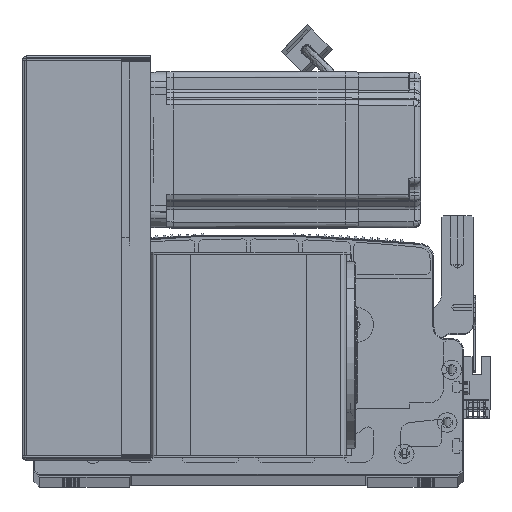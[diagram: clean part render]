
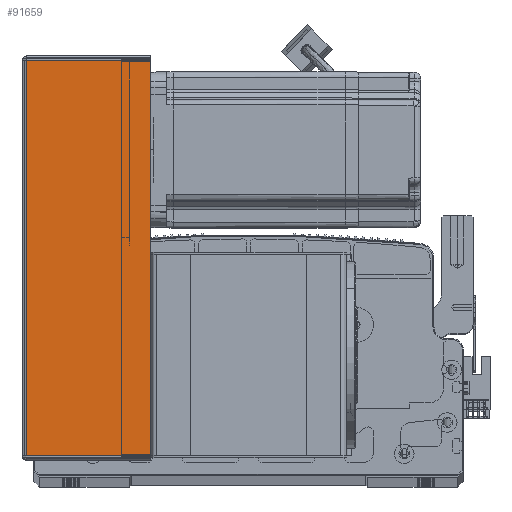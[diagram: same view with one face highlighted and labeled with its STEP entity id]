
A CAD part, top view. The second image highlights one B-rep face of the part: STEP entity #91659.
In plain terms, the highlighted planar face has unit normal (0, 0, 1) as drawn and (0, 1, 0) by its records, which use the part's own axes.
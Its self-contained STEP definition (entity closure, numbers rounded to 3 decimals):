
#2902 = LINE ( 'NONE', #19704, #82367 ) ;
#9162 = VERTEX_POINT ( 'NONE', #43344 ) ;
#17319 = VECTOR ( 'NONE', #24733, 1000. ) ;
#19674 = PLANE ( 'NONE',  #21603 ) ;
#19704 = CARTESIAN_POINT ( 'NONE',  ( 0.737, 107.5, 0. ) ) ;
#20348 = LINE ( 'NONE', #66216, #74853 ) ;
#21603 = AXIS2_PLACEMENT_3D ( 'NONE', #27279, #26948, #33233 ) ;
#23144 = ORIENTED_EDGE ( 'NONE', *, *, #56497, .F. ) ;
#24200 = VERTEX_POINT ( 'NONE', #60967 ) ;
#24733 = DIRECTION ( 'NONE',  ( 1., 0., 0. ) ) ;
#24908 = EDGE_CURVE ( 'NONE', #47297, #9162, #20348, .T. ) ;
#26948 = DIRECTION ( 'NONE',  ( 0., -1., 0. ) ) ;
#27279 = CARTESIAN_POINT ( 'NONE',  ( 0., 107.5, 0. ) ) ;
#28368 = EDGE_CURVE ( 'NONE', #49863, #47297, #55420, .T. ) ;
#29635 = EDGE_LOOP ( 'NONE', ( #97072, #69876, #52857, #23144 ) ) ;
#33233 = DIRECTION ( 'NONE',  ( 1., 0., 0. ) ) ;
#36867 = CARTESIAN_POINT ( 'NONE',  ( 0., 107.5, -203.293 ) ) ;
#41885 = DIRECTION ( 'NONE',  ( 0., 0., -1. ) ) ;
#43344 = CARTESIAN_POINT ( 'NONE',  ( 64.5, 107.5, -203.293 ) ) ;
#44069 = CARTESIAN_POINT ( 'NONE',  ( 64.5, 107.5, -0.707 ) ) ;
#44639 = DIRECTION ( 'NONE',  ( 0., 0., -1. ) ) ;
#46402 = EDGE_CURVE ( 'NONE', #49863, #24200, #2902, .T. ) ;
#47297 = VERTEX_POINT ( 'NONE', #44069 ) ;
#49863 = VERTEX_POINT ( 'NONE', #74881 ) ;
#52857 = ORIENTED_EDGE ( 'NONE', *, *, #24908, .T. ) ;
#55420 = LINE ( 'NONE', #62592, #17319 ) ;
#56497 = EDGE_CURVE ( 'NONE', #24200, #9162, #66697, .T. ) ;
#60967 = CARTESIAN_POINT ( 'NONE',  ( 0.737, 107.5, -203.293 ) ) ;
#62592 = CARTESIAN_POINT ( 'NONE',  ( 0., 107.5, -0.707 ) ) ;
#66216 = CARTESIAN_POINT ( 'NONE',  ( 64.5, 107.5, -204. ) ) ;
#66697 = LINE ( 'NONE', #36867, #87933 ) ;
#69876 = ORIENTED_EDGE ( 'NONE', *, *, #28368, .T. ) ;
#74853 = VECTOR ( 'NONE', #44639, 1000. ) ;
#74881 = CARTESIAN_POINT ( 'NONE',  ( 0.737, 107.5, -0.707 ) ) ;
#75068 = FACE_OUTER_BOUND ( 'NONE', #29635, .T. ) ;
#82367 = VECTOR ( 'NONE', #41885, 1000. ) ;
#82611 = DIRECTION ( 'NONE',  ( 1., 0., 0. ) ) ;
#87933 = VECTOR ( 'NONE', #82611, 1000. ) ;
#91659 = ADVANCED_FACE ( 'NONE', ( #75068 ), #19674, .F. ) ;
#97072 = ORIENTED_EDGE ( 'NONE', *, *, #46402, .F. ) ;
